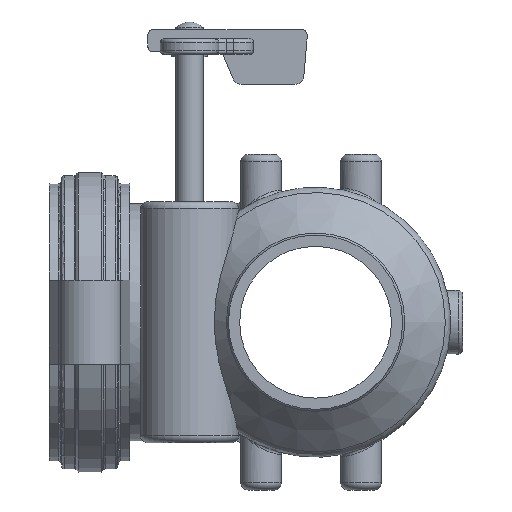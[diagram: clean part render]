
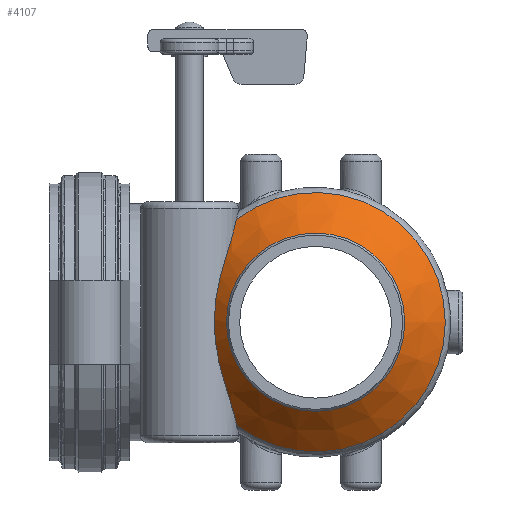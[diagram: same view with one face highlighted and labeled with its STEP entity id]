
A CAD part, left-side view. The second image highlights one B-rep face of the part: STEP entity #4107.
In plain terms, the highlighted conical face has half-angle 45 degrees and reference radius 76.555 mm.
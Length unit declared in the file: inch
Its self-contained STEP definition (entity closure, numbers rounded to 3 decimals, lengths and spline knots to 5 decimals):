
#81=CONICAL_SURFACE('',#4571,3.01397,0.785);
#187=B_SPLINE_CURVE_WITH_KNOTS('',3,(#8335,#8336,#8337,#8338,#8339,#8340,
#8341,#8342,#8343,#8344,#8345,#8346,#8347,#8348,#8349,#8350,#8351,#8352,
#8353,#8354,#8355,#8356,#8357,#8358,#8359,#8360),.UNSPECIFIED.,.F.,.F.,
(4,2,2,2,2,2,2,2,2,2,2,2,4),(2.9656,4.00933,5.34577,
6.68222,8.01866,9.3551,10.69155,12.02799,
13.36443,14.70088,16.03732,17.37376,18.4175),
 .UNSPECIFIED.);
#567=CIRCLE('',#4547,3.57229);
#568=CIRCLE('',#4548,3.57229);
#586=CIRCLE('',#4572,2.45565);
#587=CIRCLE('',#4573,2.45565);
#588=CIRCLE('',#4574,2.45565);
#824=FACE_OUTER_BOUND('',#1062,.T.);
#1062=EDGE_LOOP('',(#3544,#3545,#3546,#3547,#3548,#3549,#3550,#3551));
#1272=LINE('',#8763,#1475);
#1475=VECTOR('',#5693,3.01397);
#1786=VERTEX_POINT('',#8325);
#1787=VERTEX_POINT('',#8334);
#1813=VERTEX_POINT('',#8714);
#1829=VERTEX_POINT('',#8758);
#1830=VERTEX_POINT('',#8759);
#1831=VERTEX_POINT('',#8761);
#2329=EDGE_CURVE('',#1787,#1786,#187,.T.);
#2386=EDGE_CURVE('',#1813,#1787,#567,.T.);
#2387=EDGE_CURVE('',#1786,#1813,#568,.T.);
#2408=EDGE_CURVE('',#1829,#1830,#586,.T.);
#2409=EDGE_CURVE('',#1831,#1829,#587,.T.);
#2410=EDGE_CURVE('',#1831,#1813,#1272,.T.);
#2411=EDGE_CURVE('',#1830,#1831,#588,.T.);
#3544=ORIENTED_EDGE('',*,*,#2408,.F.);
#3545=ORIENTED_EDGE('',*,*,#2409,.F.);
#3546=ORIENTED_EDGE('',*,*,#2410,.T.);
#3547=ORIENTED_EDGE('',*,*,#2386,.T.);
#3548=ORIENTED_EDGE('',*,*,#2329,.T.);
#3549=ORIENTED_EDGE('',*,*,#2387,.T.);
#3550=ORIENTED_EDGE('',*,*,#2410,.F.);
#3551=ORIENTED_EDGE('',*,*,#2411,.F.);
#4107=ADVANCED_FACE('',(#824),#81,.T.);
#4547=AXIS2_PLACEMENT_3D('',#8715,#5636,#5637);
#4548=AXIS2_PLACEMENT_3D('',#8716,#5638,#5639);
#4571=AXIS2_PLACEMENT_3D('',#8757,#5687,#5688);
#4572=AXIS2_PLACEMENT_3D('',#8760,#5689,#5690);
#4573=AXIS2_PLACEMENT_3D('',#8762,#5691,#5692);
#4574=AXIS2_PLACEMENT_3D('',#8764,#5694,#5695);
#5636=DIRECTION('center_axis',(-1.,0.,0.));
#5637=DIRECTION('ref_axis',(0.,0.,1.));
#5638=DIRECTION('center_axis',(-1.,0.,0.));
#5639=DIRECTION('ref_axis',(0.,0.,1.));
#5687=DIRECTION('center_axis',(1.,0.,0.));
#5688=DIRECTION('ref_axis',(0.,1.,0.));
#5689=DIRECTION('center_axis',(-1.,0.,0.));
#5690=DIRECTION('ref_axis',(0.,0.,1.));
#5691=DIRECTION('center_axis',(-1.,0.,0.));
#5692=DIRECTION('ref_axis',(0.,0.,1.));
#5693=DIRECTION('',(0.707,-0.707,0.));
#5694=DIRECTION('center_axis',(-1.,0.,0.));
#5695=DIRECTION('ref_axis',(0.,0.,1.));
#8325=CARTESIAN_POINT('',(-3.51771,2.17627,-2.83286));
#8334=CARTESIAN_POINT('',(-3.51771,2.17627,2.83286));
#8335=CARTESIAN_POINT('Ctrl Pts',(-3.51771,2.17627,2.83286));
#8336=CARTESIAN_POINT('Ctrl Pts',(-3.59199,2.19842,2.72217));
#8337=CARTESIAN_POINT('Ctrl Pts',(-3.66183,2.22623,2.60892));
#8338=CARTESIAN_POINT('Ctrl Pts',(-3.80916,2.29849,2.34471));
#8339=CARTESIAN_POINT('Ctrl Pts',(-3.88324,2.34543,2.19206));
#8340=CARTESIAN_POINT('Ctrl Pts',(-4.01206,2.4431,1.87826));
#8341=CARTESIAN_POINT('Ctrl Pts',(-4.06683,2.49382,1.71693));
#8342=CARTESIAN_POINT('Ctrl Pts',(-4.15733,2.58936,1.38681));
#8343=CARTESIAN_POINT('Ctrl Pts',(-4.1931,2.6341,1.21801));
#8344=CARTESIAN_POINT('Ctrl Pts',(-4.24817,2.7092,0.87535));
#8345=CARTESIAN_POINT('Ctrl Pts',(-4.26756,2.73954,0.70141));
#8346=CARTESIAN_POINT('Ctrl Pts',(-4.29289,2.7805,0.35143));
#8347=CARTESIAN_POINT('Ctrl Pts',(-4.29888,2.79112,0.17539));
#8348=CARTESIAN_POINT('Ctrl Pts',(-4.29888,2.79112,-0.17539));
#8349=CARTESIAN_POINT('Ctrl Pts',(-4.29289,2.7805,-0.35143));
#8350=CARTESIAN_POINT('Ctrl Pts',(-4.26756,2.73954,-0.70141));
#8351=CARTESIAN_POINT('Ctrl Pts',(-4.24817,2.7092,-0.87535));
#8352=CARTESIAN_POINT('Ctrl Pts',(-4.1931,2.6341,-1.21801));
#8353=CARTESIAN_POINT('Ctrl Pts',(-4.15733,2.58936,-1.38681));
#8354=CARTESIAN_POINT('Ctrl Pts',(-4.06683,2.49382,-1.71693));
#8355=CARTESIAN_POINT('Ctrl Pts',(-4.01206,2.4431,-1.87826));
#8356=CARTESIAN_POINT('Ctrl Pts',(-3.88324,2.34543,-2.19206));
#8357=CARTESIAN_POINT('Ctrl Pts',(-3.80916,2.29849,-2.34471));
#8358=CARTESIAN_POINT('Ctrl Pts',(-3.66183,2.22623,-2.60892));
#8359=CARTESIAN_POINT('Ctrl Pts',(-3.59199,2.19842,-2.72217));
#8360=CARTESIAN_POINT('Ctrl Pts',(-3.51771,2.17627,-2.83286));
#8714=CARTESIAN_POINT('',(-3.51771,-3.57229,0.));
#8715=CARTESIAN_POINT('Origin',(-3.51771,0.,0.));
#8716=CARTESIAN_POINT('Origin',(-3.51771,0.,0.));
#8757=CARTESIAN_POINT('Origin',(-4.07603,0.,0.));
#8758=CARTESIAN_POINT('',(-4.63435,2.45565,0.));
#8759=CARTESIAN_POINT('',(-4.63435,0.,-2.45565));
#8760=CARTESIAN_POINT('Origin',(-4.63435,0.,0.));
#8761=CARTESIAN_POINT('',(-4.63435,-2.45565,0.));
#8762=CARTESIAN_POINT('Origin',(-4.63435,0.,0.));
#8763=CARTESIAN_POINT('',(-4.07603,-3.01397,0.));
#8764=CARTESIAN_POINT('Origin',(-4.63435,0.,0.));
